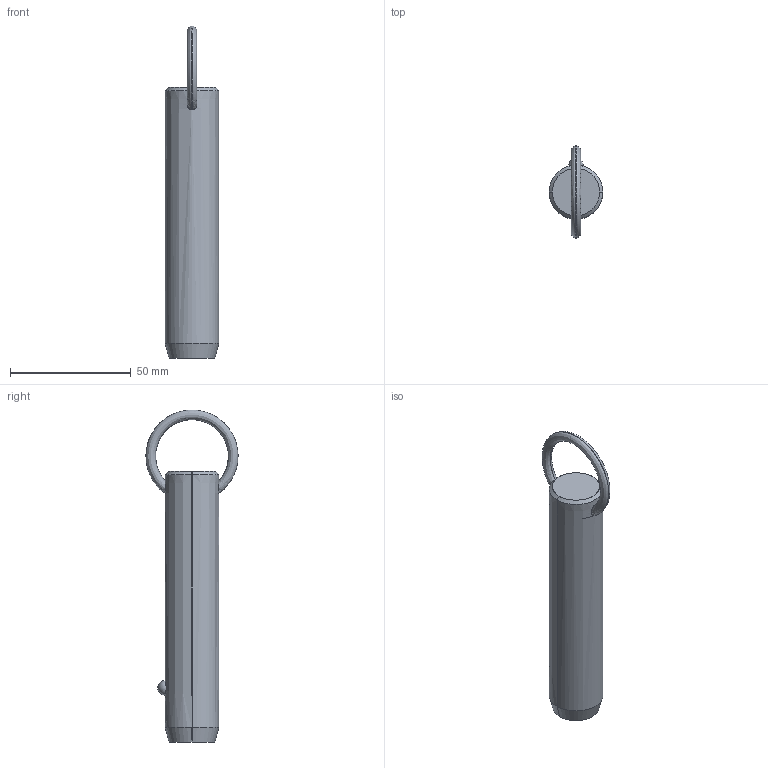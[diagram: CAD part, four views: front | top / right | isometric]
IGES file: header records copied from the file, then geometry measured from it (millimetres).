
Start section: SolidWorks IGES file using analytic representation for surfaces
Global section: file name: C:\Users\liam_\OneDrive\Documents\WORK\Work for WixRoyd\Job Files\J-00019 - Matt Davis CAD Checking\04. CAD Drawings\automotion20190605\P1250.2_v2\P1250.2_v2_20190729_IGES\P1250.087-290.igs; native system: SolidWorks 2017; preprocessor: SolidWorks 2017; author: liam_; date: 190730.000833; units: millimetre
Bounding box: 22.2 x 38.09 x 137.2 mm (x, y, z)
Surface area: 9441.1 mm2 (no closed solid volume)
Topology: 0 solids, 0 shells, 12 faces, 302 edges, 300 vertices
Faces by surface type: revolution 8, bspline 4
